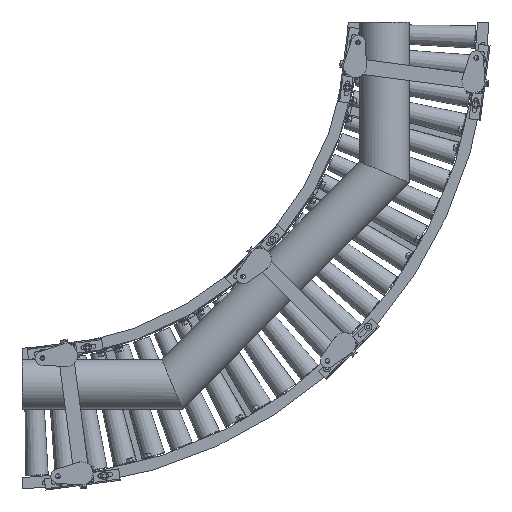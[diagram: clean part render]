
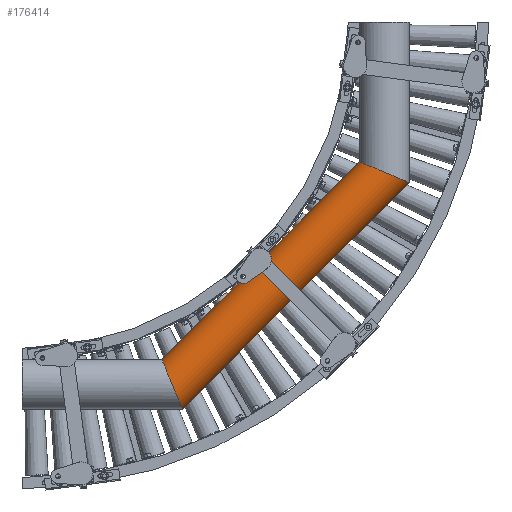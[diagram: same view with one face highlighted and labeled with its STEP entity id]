
A CAD part, front view. The second image highlights one B-rep face of the part: STEP entity #176414.
In plain terms, the highlighted cylindrical face has radius 67.024 mm (diameter 134.048 mm), a partial arc.
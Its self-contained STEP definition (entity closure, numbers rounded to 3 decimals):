
#866 = CARTESIAN_POINT ( 'NONE',  ( 900., -166.5, -372.802 ) ) ;
#13071 = EDGE_CURVE ( 'NONE', #172850, #65283, #125583, .T. ) ;
#16599 = EDGE_CURVE ( 'NONE', #30898, #65283, #142072, .T. ) ;
#16967 = FACE_OUTER_BOUND ( 'NONE', #56595, .T. ) ;
#21448 = EDGE_CURVE ( 'NONE', #157251, #172850, #176694, .T. ) ;
#30898 = VERTEX_POINT ( 'NONE', #63941 ) ;
#36185 = DIRECTION ( 'NONE',  ( -0.707, 0., -0.707 ) ) ;
#43396 = ORIENTED_EDGE ( 'NONE', *, *, #16599, .F. ) ;
#56013 = CARTESIAN_POINT ( 'NONE',  ( 915.03, -267.933, -379.027 ) ) ;
#56595 = EDGE_LOOP ( 'NONE', ( #99702, #78365, #90788, #43396 ) ) ;
#63941 = CARTESIAN_POINT ( 'NONE',  ( 427.727, -166.5, -1032.6 ) ) ;
#65283 = VERTEX_POINT ( 'NONE', #118048 ) ;
#65623 = VECTOR ( 'NONE', #36185, 1000. ) ;
#68976 = CARTESIAN_POINT ( 'NONE',  ( 1032.805, -166.5, -427.522 ) ) ;
#78365 = ORIENTED_EDGE ( 'NONE', *, *, #21448, .T. ) ;
#80651 = CARTESIAN_POINT ( 'NONE',  ( 900., -166.5, -372.802 ) ) ;
#85771 = DIRECTION ( 'NONE',  ( -0.707, 0., -0.707 ) ) ;
#89478 = CARTESIAN_POINT ( 'NONE',  ( 379.027, -267.933, -915.03 ) ) ;
#90788 = ORIENTED_EDGE ( 'NONE', *, *, #13071, .T. ) ;
#98908 = CARTESIAN_POINT ( 'NONE',  ( 1032.6, -166.5, -427.727 ) ) ;
#99702 = ORIENTED_EDGE ( 'NONE', *, *, #133998, .F. ) ;
#103761 = CARTESIAN_POINT ( 'NONE',  ( 372.802, -166.5, -900. ) ) ;
#103774 = CARTESIAN_POINT ( 'NONE',  ( 1032.6, -166.5, -427.727 ) ) ;
#111542 = AXIS2_PLACEMENT_3D ( 'NONE', #169619, #169012, #114468 ) ;
#114468 = DIRECTION ( 'NONE',  ( -0.707, 0., 0.707 ) ) ;
#116736 = CYLINDRICAL_SURFACE ( 'NONE', #111542, 67.024 ) ;
#118048 = CARTESIAN_POINT ( 'NONE',  ( 372.802, -166.5, -900. ) ) ;
#125583 = LINE ( 'NONE', #135959, #65623 ) ;
#130383 = CARTESIAN_POINT ( 'NONE',  ( 427.727, -166.5, -1032.6 ) ) ;
#133998 = EDGE_CURVE ( 'NONE', #157251, #30898, #183923, .T. ) ;
#135959 = CARTESIAN_POINT ( 'NONE',  ( 939.043, -166.5, -333.759 ) ) ;
#142072 =( BOUNDED_CURVE ( )  B_SPLINE_CURVE ( 3, ( #130383, #172582, #89478, #103761 ),
 .UNSPECIFIED., .F., .T. ) 
 B_SPLINE_CURVE_WITH_KNOTS ( ( 4, 4 ),
 ( 0.147, 2.994 ),
 .UNSPECIFIED. ) 
 CURVE ( )  GEOMETRIC_REPRESENTATION_ITEM ( )  RATIONAL_B_SPLINE_CURVE ( ( 1., 0.431, 0.431, 1. ) ) 
 REPRESENTATION_ITEM ( '' )  );
#146164 = VECTOR ( 'NONE', #85771, 1000. ) ;
#154765 = CARTESIAN_POINT ( 'NONE',  ( 1017.57, -267.933, -421.501 ) ) ;
#157251 = VERTEX_POINT ( 'NONE', #103774 ) ;
#169012 = DIRECTION ( 'NONE',  ( -0.707, 0., -0.707 ) ) ;
#169619 = CARTESIAN_POINT ( 'NONE',  ( 985.924, -156.676, -380.64 ) ) ;
#172582 = CARTESIAN_POINT ( 'NONE',  ( 421.501, -267.933, -1017.57 ) ) ;
#172850 = VERTEX_POINT ( 'NONE', #80651 ) ;
#176414 = ADVANCED_FACE ( 'NONE', ( #16967 ), #116736, .T. ) ;
#176694 =( BOUNDED_CURVE ( )  B_SPLINE_CURVE ( 3, ( #98908, #154765, #56013, #866 ),
 .UNSPECIFIED., .F., .T. ) 
 B_SPLINE_CURVE_WITH_KNOTS ( ( 4, 4 ),
 ( 0.147, 2.994 ),
 .UNSPECIFIED. ) 
 CURVE ( )  GEOMETRIC_REPRESENTATION_ITEM ( )  RATIONAL_B_SPLINE_CURVE ( ( 1., 0.431, 0.431, 1. ) ) 
 REPRESENTATION_ITEM ( '' )  );
#183923 = LINE ( 'NONE', #68976, #146164 ) ;
